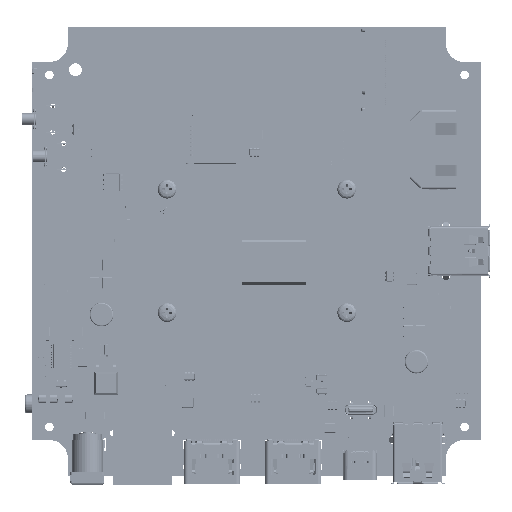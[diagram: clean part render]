
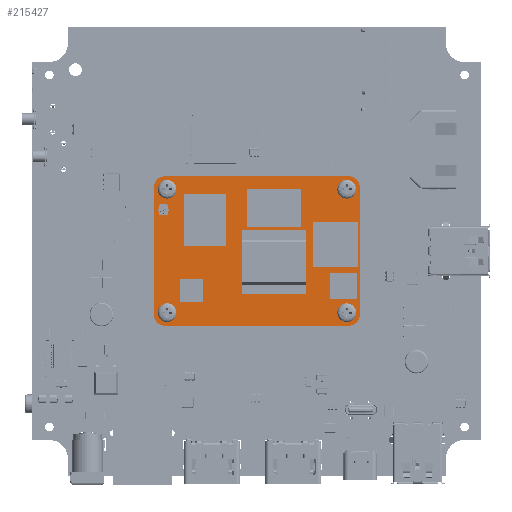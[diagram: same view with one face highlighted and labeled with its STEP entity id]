
A CAD part, top view. The second image highlights one B-rep face of the part: STEP entity #215427.
In plain terms, the highlighted planar face has unit normal (0, 0, 1).
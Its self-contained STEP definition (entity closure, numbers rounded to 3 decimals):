
#215263 = EDGE_CURVE('',#215264,#215266,#215268,.T.);
#215264 = VERTEX_POINT('',#215265);
#215265 = CARTESIAN_POINT('',(4.85,3.5,1.076));
#215266 = VERTEX_POINT('',#215267);
#215267 = CARTESIAN_POINT('',(2.15,3.5,1.076));
#215268 = CIRCLE('',#215269,1.35);
#215269 = AXIS2_PLACEMENT_3D('',#215270,#215271,#215272);
#215270 = CARTESIAN_POINT('',(3.5,3.5,1.076));
#215271 = DIRECTION('',(0.,0.,1.));
#215272 = DIRECTION('',(-1.,0.,0.));
#215305 = EDGE_CURVE('',#215306,#215308,#215310,.T.);
#215306 = VERTEX_POINT('',#215307);
#215307 = CARTESIAN_POINT('',(52.85,3.5,1.076));
#215308 = VERTEX_POINT('',#215309);
#215309 = CARTESIAN_POINT('',(50.15,3.5,1.076));
#215310 = CIRCLE('',#215311,1.35);
#215311 = AXIS2_PLACEMENT_3D('',#215312,#215313,#215314);
#215312 = CARTESIAN_POINT('',(51.5,3.5,1.076));
#215313 = DIRECTION('',(0.,0.,1.));
#215314 = DIRECTION('',(-1.,0.,0.));
#215347 = EDGE_CURVE('',#215348,#215350,#215352,.T.);
#215348 = VERTEX_POINT('',#215349);
#215349 = CARTESIAN_POINT('',(4.85,36.5,1.076));
#215350 = VERTEX_POINT('',#215351);
#215351 = CARTESIAN_POINT('',(2.15,36.5,1.076));
#215352 = CIRCLE('',#215353,1.35);
#215353 = AXIS2_PLACEMENT_3D('',#215354,#215355,#215356);
#215354 = CARTESIAN_POINT('',(3.5,36.5,1.076));
#215355 = DIRECTION('',(0.,0.,1.));
#215356 = DIRECTION('',(-1.,0.,0.));
#215389 = EDGE_CURVE('',#215390,#215392,#215394,.T.);
#215390 = VERTEX_POINT('',#215391);
#215391 = CARTESIAN_POINT('',(52.85,36.5,1.076));
#215392 = VERTEX_POINT('',#215393);
#215393 = CARTESIAN_POINT('',(50.15,36.5,1.076));
#215394 = CIRCLE('',#215395,1.35);
#215395 = AXIS2_PLACEMENT_3D('',#215396,#215397,#215398);
#215396 = CARTESIAN_POINT('',(51.5,36.5,1.076));
#215397 = DIRECTION('',(0.,0.,1.));
#215398 = DIRECTION('',(-1.,0.,0.));
#215427 = ADVANCED_FACE('',(#215428,#215498,#215508,#215518,#215528),
  #215538,.T.);
#215428 = FACE_BOUND('',#215429,.T.);
#215429 = EDGE_LOOP('',(#215430,#215440,#215449,#215457,#215466,#215474,
    #215483,#215491));
#215430 = ORIENTED_EDGE('',*,*,#215431,.T.);
#215431 = EDGE_CURVE('',#215432,#215434,#215436,.T.);
#215432 = VERTEX_POINT('',#215433);
#215433 = CARTESIAN_POINT('',(52.,40.,1.076));
#215434 = VERTEX_POINT('',#215435);
#215435 = CARTESIAN_POINT('',(3.,40.,1.076));
#215436 = LINE('',#215437,#215438);
#215437 = CARTESIAN_POINT('',(27.5,40.,1.076));
#215438 = VECTOR('',#215439,1.);
#215439 = DIRECTION('',(-1.,0.,0.));
#215440 = ORIENTED_EDGE('',*,*,#215441,.T.);
#215441 = EDGE_CURVE('',#215434,#215442,#215444,.T.);
#215442 = VERTEX_POINT('',#215443);
#215443 = CARTESIAN_POINT('',(0.,37.,1.076));
#215444 = CIRCLE('',#215445,3.);
#215445 = AXIS2_PLACEMENT_3D('',#215446,#215447,#215448);
#215446 = CARTESIAN_POINT('',(3.,37.,1.076));
#215447 = DIRECTION('',(0.,-0.,1.));
#215448 = DIRECTION('',(0.,1.,0.));
#215449 = ORIENTED_EDGE('',*,*,#215450,.T.);
#215450 = EDGE_CURVE('',#215442,#215451,#215453,.T.);
#215451 = VERTEX_POINT('',#215452);
#215452 = CARTESIAN_POINT('',(0.,3.,1.076));
#215453 = LINE('',#215454,#215455);
#215454 = CARTESIAN_POINT('',(0.,20.,1.076));
#215455 = VECTOR('',#215456,1.);
#215456 = DIRECTION('',(0.,-1.,0.));
#215457 = ORIENTED_EDGE('',*,*,#215458,.T.);
#215458 = EDGE_CURVE('',#215451,#215459,#215461,.T.);
#215459 = VERTEX_POINT('',#215460);
#215460 = CARTESIAN_POINT('',(3.,0.,1.076));
#215461 = CIRCLE('',#215462,3.);
#215462 = AXIS2_PLACEMENT_3D('',#215463,#215464,#215465);
#215463 = CARTESIAN_POINT('',(3.,3.,1.076));
#215464 = DIRECTION('',(0.,0.,1.));
#215465 = DIRECTION('',(-1.,0.,0.));
#215466 = ORIENTED_EDGE('',*,*,#215467,.T.);
#215467 = EDGE_CURVE('',#215459,#215468,#215470,.T.);
#215468 = VERTEX_POINT('',#215469);
#215469 = CARTESIAN_POINT('',(52.,0.,1.076));
#215470 = LINE('',#215471,#215472);
#215471 = CARTESIAN_POINT('',(27.5,0.,1.076));
#215472 = VECTOR('',#215473,1.);
#215473 = DIRECTION('',(1.,0.,0.));
#215474 = ORIENTED_EDGE('',*,*,#215475,.T.);
#215475 = EDGE_CURVE('',#215468,#215476,#215478,.T.);
#215476 = VERTEX_POINT('',#215477);
#215477 = CARTESIAN_POINT('',(55.,3.,1.076));
#215478 = CIRCLE('',#215479,3.);
#215479 = AXIS2_PLACEMENT_3D('',#215480,#215481,#215482);
#215480 = CARTESIAN_POINT('',(52.,3.,1.076));
#215481 = DIRECTION('',(0.,0.,1.));
#215482 = DIRECTION('',(0.,-1.,0.));
#215483 = ORIENTED_EDGE('',*,*,#215484,.T.);
#215484 = EDGE_CURVE('',#215476,#215485,#215487,.T.);
#215485 = VERTEX_POINT('',#215486);
#215486 = CARTESIAN_POINT('',(55.,37.,1.076));
#215487 = LINE('',#215488,#215489);
#215488 = CARTESIAN_POINT('',(55.,20.,1.076));
#215489 = VECTOR('',#215490,1.);
#215490 = DIRECTION('',(0.,1.,0.));
#215491 = ORIENTED_EDGE('',*,*,#215492,.T.);
#215492 = EDGE_CURVE('',#215485,#215432,#215493,.T.);
#215493 = CIRCLE('',#215494,3.);
#215494 = AXIS2_PLACEMENT_3D('',#215495,#215496,#215497);
#215495 = CARTESIAN_POINT('',(52.,37.,1.076));
#215496 = DIRECTION('',(0.,0.,1.));
#215497 = DIRECTION('',(1.,0.,-0.));
#215498 = FACE_BOUND('',#215499,.T.);
#215499 = EDGE_LOOP('',(#215500,#215507));
#215500 = ORIENTED_EDGE('',*,*,#215501,.F.);
#215501 = EDGE_CURVE('',#215266,#215264,#215502,.T.);
#215502 = CIRCLE('',#215503,1.35);
#215503 = AXIS2_PLACEMENT_3D('',#215504,#215505,#215506);
#215504 = CARTESIAN_POINT('',(3.5,3.5,1.076));
#215505 = DIRECTION('',(0.,0.,1.));
#215506 = DIRECTION('',(-1.,0.,0.));
#215507 = ORIENTED_EDGE('',*,*,#215263,.F.);
#215508 = FACE_BOUND('',#215509,.T.);
#215509 = EDGE_LOOP('',(#215510,#215517));
#215510 = ORIENTED_EDGE('',*,*,#215511,.F.);
#215511 = EDGE_CURVE('',#215308,#215306,#215512,.T.);
#215512 = CIRCLE('',#215513,1.35);
#215513 = AXIS2_PLACEMENT_3D('',#215514,#215515,#215516);
#215514 = CARTESIAN_POINT('',(51.5,3.5,1.076));
#215515 = DIRECTION('',(0.,0.,1.));
#215516 = DIRECTION('',(-1.,0.,0.));
#215517 = ORIENTED_EDGE('',*,*,#215305,.F.);
#215518 = FACE_BOUND('',#215519,.T.);
#215519 = EDGE_LOOP('',(#215520,#215527));
#215520 = ORIENTED_EDGE('',*,*,#215521,.F.);
#215521 = EDGE_CURVE('',#215350,#215348,#215522,.T.);
#215522 = CIRCLE('',#215523,1.35);
#215523 = AXIS2_PLACEMENT_3D('',#215524,#215525,#215526);
#215524 = CARTESIAN_POINT('',(3.5,36.5,1.076));
#215525 = DIRECTION('',(0.,0.,1.));
#215526 = DIRECTION('',(-1.,0.,0.));
#215527 = ORIENTED_EDGE('',*,*,#215347,.F.);
#215528 = FACE_BOUND('',#215529,.T.);
#215529 = EDGE_LOOP('',(#215530,#215537));
#215530 = ORIENTED_EDGE('',*,*,#215531,.F.);
#215531 = EDGE_CURVE('',#215392,#215390,#215532,.T.);
#215532 = CIRCLE('',#215533,1.35);
#215533 = AXIS2_PLACEMENT_3D('',#215534,#215535,#215536);
#215534 = CARTESIAN_POINT('',(51.5,36.5,1.076));
#215535 = DIRECTION('',(0.,0.,1.));
#215536 = DIRECTION('',(-1.,0.,0.));
#215537 = ORIENTED_EDGE('',*,*,#215389,.F.);
#215538 = PLANE('',#215539);
#215539 = AXIS2_PLACEMENT_3D('',#215540,#215541,#215542);
#215540 = CARTESIAN_POINT('',(27.5,20.,1.076));
#215541 = DIRECTION('',(0.,0.,1.));
#215542 = DIRECTION('',(1.,0.,-0.));
